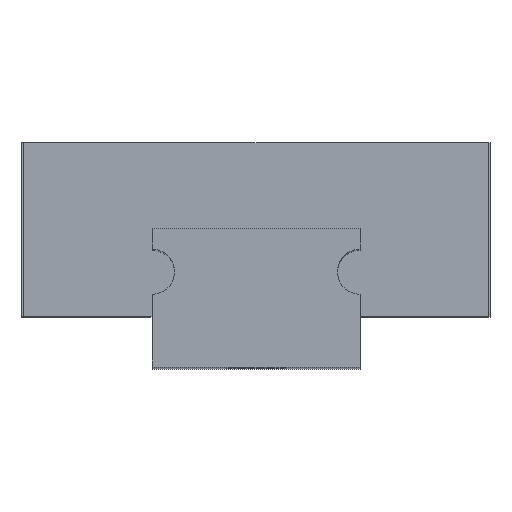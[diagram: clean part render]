
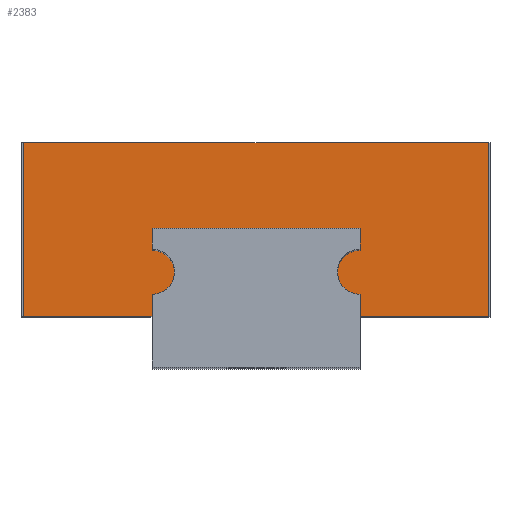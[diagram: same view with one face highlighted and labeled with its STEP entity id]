
A CAD part, top view. The second image highlights one B-rep face of the part: STEP entity #2383.
In plain terms, the highlighted planar face has unit normal (0, 0, 1).
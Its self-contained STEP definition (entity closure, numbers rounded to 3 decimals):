
#7 = CARTESIAN_POINT ( 'NONE',  ( -13.4, -5., 17.6 ) ) ;
#37 = DIRECTION ( 'NONE',  ( 0., 0., -1. ) ) ;
#90 = CARTESIAN_POINT ( 'NONE',  ( 6., -3.8, 17.6 ) ) ;
#94 = VERTEX_POINT ( 'NONE', #1827 ) ;
#106 = CARTESIAN_POINT ( 'NONE',  ( -13.4, -5., 17.6 ) ) ;
#179 = ORIENTED_EDGE ( 'NONE', *, *, #2208, .F. ) ;
#227 = CIRCLE ( 'NONE', #381, 1.3 ) ;
#231 = ORIENTED_EDGE ( 'NONE', *, *, #786, .F. ) ;
#252 = AXIS2_PLACEMENT_3D ( 'NONE', #1465, #2562, #1223 ) ;
#261 = LINE ( 'NONE', #321, #2559 ) ;
#269 = LINE ( 'NONE', #1866, #1487 ) ;
#321 = CARTESIAN_POINT ( 'NONE',  ( -6., 0., 17.6 ) ) ;
#359 = VECTOR ( 'NONE', #1320, 1000. ) ;
#381 = AXIS2_PLACEMENT_3D ( 'NONE', #1592, #37, #1344 ) ;
#462 = EDGE_CURVE ( 'NONE', #564, #509, #2676, .T. ) ;
#488 = DIRECTION ( 'NONE',  ( 1., 0., 0. ) ) ;
#489 = LINE ( 'NONE', #106, #622 ) ;
#491 = VECTOR ( 'NONE', #841, 1000. ) ;
#509 = VERTEX_POINT ( 'NONE', #864 ) ;
#564 = VERTEX_POINT ( 'NONE', #1092 ) ;
#569 = CARTESIAN_POINT ( 'NONE',  ( 6., 0., 17.6 ) ) ;
#589 = DIRECTION ( 'NONE',  ( 0., 1., 0. ) ) ;
#594 = DIRECTION ( 'NONE',  ( 0., 0., -1. ) ) ;
#619 = CARTESIAN_POINT ( 'NONE',  ( -4.7, -2.5, 17.6 ) ) ;
#622 = VECTOR ( 'NONE', #1659, 1000. ) ;
#655 = ORIENTED_EDGE ( 'NONE', *, *, #2852, .T. ) ;
#685 = CARTESIAN_POINT ( 'NONE',  ( -6., 0., 17.6 ) ) ;
#760 = DIRECTION ( 'NONE',  ( 0., -1., 0. ) ) ;
#786 = EDGE_CURVE ( 'NONE', #1425, #94, #1504, .T. ) ;
#812 = CARTESIAN_POINT ( 'NONE',  ( -6., -2.5, 17.6 ) ) ;
#817 = CARTESIAN_POINT ( 'NONE',  ( -13.4, 5., 17.6 ) ) ;
#820 = FACE_OUTER_BOUND ( 'NONE', #1120, .T. ) ;
#841 = DIRECTION ( 'NONE',  ( 0., -1., 0. ) ) ;
#845 = LINE ( 'NONE', #2813, #2452 ) ;
#854 = EDGE_CURVE ( 'NONE', #509, #1622, #1101, .T. ) ;
#864 = CARTESIAN_POINT ( 'NONE',  ( -6., -1.2, 17.6 ) ) ;
#939 = EDGE_CURVE ( 'NONE', #2430, #1862, #1560, .T. ) ;
#948 = PLANE ( 'NONE',  #2608 ) ;
#949 = EDGE_CURVE ( 'NONE', #1873, #1693, #2718, .T. ) ;
#953 = LINE ( 'NONE', #7, #359 ) ;
#978 = VERTEX_POINT ( 'NONE', #1056 ) ;
#1003 = VECTOR ( 'NONE', #1045, 1000. ) ;
#1023 = VERTEX_POINT ( 'NONE', #1495 ) ;
#1028 = DIRECTION ( 'NONE',  ( 0., 1., 0. ) ) ;
#1040 = DIRECTION ( 'NONE',  ( 1., 0., 0. ) ) ;
#1045 = DIRECTION ( 'NONE',  ( 0., 1., 0. ) ) ;
#1056 = CARTESIAN_POINT ( 'NONE',  ( 13.4, 5., 17.6 ) ) ;
#1092 = CARTESIAN_POINT ( 'NONE',  ( -6., 0., 17.6 ) ) ;
#1101 = CIRCLE ( 'NONE', #252, 1.3 ) ;
#1120 = EDGE_LOOP ( 'NONE', ( #1664, #1293, #2578, #1491, #2486, #655, #2753, #2796, #2454, #1797, #2756, #231, #179 ) ) ;
#1200 = DIRECTION ( 'NONE',  ( 0., -1., 0. ) ) ;
#1222 = DIRECTION ( 'NONE',  ( -1., 0., 0. ) ) ;
#1223 = DIRECTION ( 'NONE',  ( 1., 0., 0. ) ) ;
#1293 = ORIENTED_EDGE ( 'NONE', *, *, #1490, .T. ) ;
#1298 = CARTESIAN_POINT ( 'NONE',  ( -13.4, -5., 17.6 ) ) ;
#1320 = DIRECTION ( 'NONE',  ( 1., 0., 0. ) ) ;
#1344 = DIRECTION ( 'NONE',  ( 1., 0., 0. ) ) ;
#1384 = CARTESIAN_POINT ( 'NONE',  ( 0., 0., 17.6 ) ) ;
#1420 = AXIS2_PLACEMENT_3D ( 'NONE', #812, #594, #1040 ) ;
#1425 = VERTEX_POINT ( 'NONE', #1427 ) ;
#1427 = CARTESIAN_POINT ( 'NONE',  ( 6., -1.2, 17.6 ) ) ;
#1446 = EDGE_CURVE ( 'NONE', #1023, #1660, #269, .T. ) ;
#1465 = CARTESIAN_POINT ( 'NONE',  ( -6., -2.5, 17.6 ) ) ;
#1487 = VECTOR ( 'NONE', #760, 1000. ) ;
#1490 = EDGE_CURVE ( 'NONE', #2430, #1597, #489, .T. ) ;
#1491 = ORIENTED_EDGE ( 'NONE', *, *, #2000, .T. ) ;
#1495 = CARTESIAN_POINT ( 'NONE',  ( -13.4, 5., 17.6 ) ) ;
#1504 = LINE ( 'NONE', #569, #2771 ) ;
#1560 = LINE ( 'NONE', #2369, #1003 ) ;
#1592 = CARTESIAN_POINT ( 'NONE',  ( 6., -2.5, 17.6 ) ) ;
#1597 = VERTEX_POINT ( 'NONE', #2582 ) ;
#1611 = DIRECTION ( 'NONE',  ( 0., 0., 1. ) ) ;
#1622 = VERTEX_POINT ( 'NONE', #619 ) ;
#1659 = DIRECTION ( 'NONE',  ( 1., 0., 0. ) ) ;
#1660 = VERTEX_POINT ( 'NONE', #1298 ) ;
#1664 = ORIENTED_EDGE ( 'NONE', *, *, #939, .F. ) ;
#1665 = VECTOR ( 'NONE', #1222, 1000. ) ;
#1693 = VERTEX_POINT ( 'NONE', #2398 ) ;
#1762 = CIRCLE ( 'NONE', #1420, 1.3 ) ;
#1797 = ORIENTED_EDGE ( 'NONE', *, *, #462, .F. ) ;
#1827 = CARTESIAN_POINT ( 'NONE',  ( 6., 0., 17.6 ) ) ;
#1862 = VERTEX_POINT ( 'NONE', #90 ) ;
#1866 = CARTESIAN_POINT ( 'NONE',  ( -13.4, 5., 17.6 ) ) ;
#1873 = VERTEX_POINT ( 'NONE', #2106 ) ;
#2000 = EDGE_CURVE ( 'NONE', #978, #1023, #2319, .T. ) ;
#2106 = CARTESIAN_POINT ( 'NONE',  ( -6., -3.8, 17.6 ) ) ;
#2208 = EDGE_CURVE ( 'NONE', #1862, #1425, #227, .T. ) ;
#2319 = LINE ( 'NONE', #817, #1665 ) ;
#2330 = DIRECTION ( 'NONE',  ( -1., 0., 0. ) ) ;
#2369 = CARTESIAN_POINT ( 'NONE',  ( 6., -3.8, 17.6 ) ) ;
#2383 = ADVANCED_FACE ( 'NONE', ( #820 ), #948, .T. ) ;
#2398 = CARTESIAN_POINT ( 'NONE',  ( -6., -5., 17.6 ) ) ;
#2430 = VERTEX_POINT ( 'NONE', #2479 ) ;
#2452 = VECTOR ( 'NONE', #1028, 1000. ) ;
#2454 = ORIENTED_EDGE ( 'NONE', *, *, #854, .F. ) ;
#2479 = CARTESIAN_POINT ( 'NONE',  ( 6., -5., 17.6 ) ) ;
#2486 = ORIENTED_EDGE ( 'NONE', *, *, #1446, .T. ) ;
#2559 = VECTOR ( 'NONE', #2330, 1000. ) ;
#2562 = DIRECTION ( 'NONE',  ( 0., 0., -1. ) ) ;
#2578 = ORIENTED_EDGE ( 'NONE', *, *, #2692, .T. ) ;
#2582 = CARTESIAN_POINT ( 'NONE',  ( 13.4, -5., 17.6 ) ) ;
#2591 = EDGE_CURVE ( 'NONE', #94, #564, #261, .T. ) ;
#2607 = VECTOR ( 'NONE', #1200, 1000. ) ;
#2608 = AXIS2_PLACEMENT_3D ( 'NONE', #1384, #1611, #488 ) ;
#2611 = CARTESIAN_POINT ( 'NONE',  ( -6., -3.8, 17.6 ) ) ;
#2676 = LINE ( 'NONE', #685, #2607 ) ;
#2687 = EDGE_CURVE ( 'NONE', #1622, #1873, #1762, .T. ) ;
#2692 = EDGE_CURVE ( 'NONE', #1597, #978, #845, .T. ) ;
#2718 = LINE ( 'NONE', #2611, #491 ) ;
#2753 = ORIENTED_EDGE ( 'NONE', *, *, #949, .F. ) ;
#2756 = ORIENTED_EDGE ( 'NONE', *, *, #2591, .F. ) ;
#2771 = VECTOR ( 'NONE', #589, 1000. ) ;
#2796 = ORIENTED_EDGE ( 'NONE', *, *, #2687, .F. ) ;
#2813 = CARTESIAN_POINT ( 'NONE',  ( 13.4, 5., 17.6 ) ) ;
#2852 = EDGE_CURVE ( 'NONE', #1660, #1693, #953, .T. ) ;
